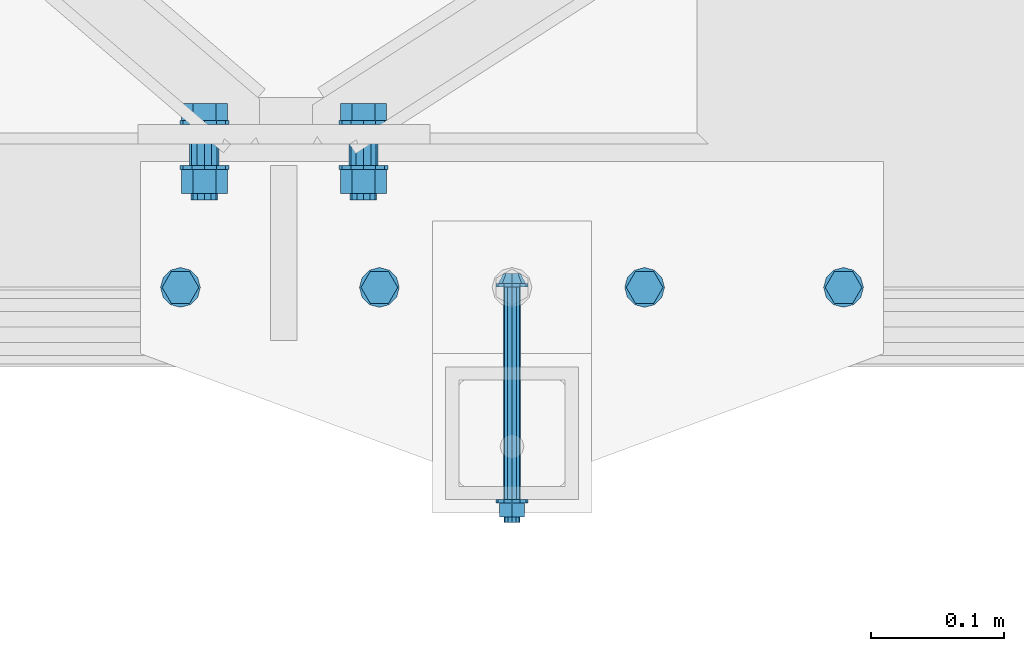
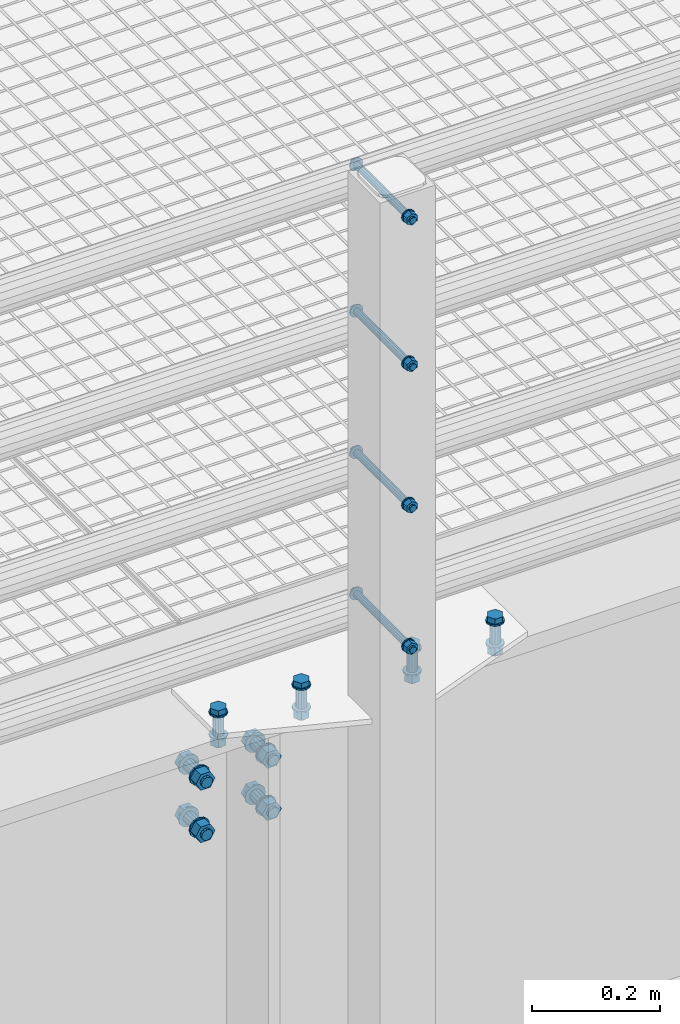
# One storey, part 17 of 1530: 6 mechanical fasteners.
"""IFC2X3 building model written with IfcOpenShell, lengths in millimetres."""

from ifc_helpers import new_model, si_unit, frame, origin_with_axes, place, context, subcontext, project, spatial, faceted_brep, source, transform, mapped, material, type_object, element, save


model = new_model("IFC2X3")

# Units and contexts
model_context = context("Model", 3, precision=1e-05, world=origin_with_axes())
body_context = subcontext(model_context, "Body", "Model", "MODEL_VIEW")
ifc_project = project(units=[si_unit("LENGTHUNIT", "METRE", prefix="MILLI"), si_unit("AREAUNIT", "SQUARE_METRE"), si_unit("VOLUMEUNIT", "CUBIC_METRE"), si_unit("MASSUNIT", "GRAM", prefix="KILO"), si_unit("TIMEUNIT", "SECOND"), si_unit("PLANEANGLEUNIT", "RADIAN"), si_unit("SOLIDANGLEUNIT", "STERADIAN"), si_unit("THERMODYNAMICTEMPERATUREUNIT", "DEGREE_CELSIUS"), si_unit("LUMINOUSINTENSITYUNIT", "LUMEN")], contexts=[model_context])

# Site, building, storey
site_placement = place(None, origin_with_axes())
site = spatial("IfcSite", under=ifc_project, at=site_placement, Name="Brattvåg", CompositionType="ELEMENT")
building_placement = place(site_placement, origin_with_axes())
building = spatial("IfcBuilding", under=site, at=building_placement, Name="Undefined", CompositionType="ELEMENT")
storey_placement = place(building_placement, origin_with_axes())
storey = spatial("IfcBuildingStorey", under=building, at=storey_placement, Name="Undefined", CompositionType="ELEMENT", Elevation=0.0)

# Mechanical fasteners
ifc_material = material(Name="8")
mechanical_fastener_type = type_object("IfcMechanicalFastenerType", Name="Bolt assembly")
shared_shape_1 = source(origin_with_axes(), body_context, "Body", "Brep", [
    faceted_brep([(6.49435320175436, -9.99984019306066, 0.0), (4.59220118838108, -9.99984019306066, 4.59220118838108), (3.97664443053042e-16, -9.99984019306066, 6.49435320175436), (-4.59220118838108, -9.99984019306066, 4.59220118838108), (-6.49435320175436, -9.99984019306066, 7.95328886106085e-16), (-4.59220118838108, -9.99984019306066, -4.59220118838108), (-1.19299332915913e-15, -9.99984019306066, -6.49435320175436), (4.59220118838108, -9.99984019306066, -4.59220118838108), (7.34846922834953, -2.49984019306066, -7.34846922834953), (-1.90903542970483e-15, -2.49984019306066, -10.3923048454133), (-7.34846922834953, -2.49984019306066, -7.34846922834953), (-10.3923048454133, -2.49984019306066, 1.27269028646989e-15), (-7.34846922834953, -2.49984019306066, 7.34846922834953), (6.36345143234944e-16, -2.49984019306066, 10.3923048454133), (7.34846922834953, -2.49984019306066, 7.34846922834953), (10.3923048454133, -2.49984019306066, 0.0), (6.0, -2.49984019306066, 0.0), (5.19615242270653, -2.49984019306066, 3.00000000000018), (2.99999999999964, -2.49984019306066, 5.19615242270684), (-6.21801588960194e-13, -2.49984019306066, 6.0), (-3.00000000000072, -2.49984019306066, 5.19615242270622), (-5.19615242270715, -2.49984019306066, 2.9999999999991), (-6.0, -2.49984019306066, -1.24360317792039e-12), (-5.19615242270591, -2.49984019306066, -3.00000000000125), (-2.99999999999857, -2.49984019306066, -5.19615242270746), (1.85874342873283e-12, -2.49984019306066, -6.0), (3.00000000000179, -2.49984019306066, -5.1961524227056), (5.19615242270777, -2.49984019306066, -2.99999999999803), (5.19615242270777, 177.500159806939, -2.99999999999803), (3.00000000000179, 177.500159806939, -5.1961524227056), (1.85874342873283e-12, 177.500159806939, -6.0), (-2.99999999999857, 177.500159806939, -5.19615242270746), (-5.19615242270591, 177.500159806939, -3.00000000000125), (-6.0, 177.500159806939, -1.24360317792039e-12), (-5.19615242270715, 177.500159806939, 2.9999999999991), (-3.00000000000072, 177.500159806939, 5.19615242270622), (-6.21801588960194e-13, 177.500159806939, 6.0), (2.99999999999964, 177.500159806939, 5.19615242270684), (5.19615242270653, 177.500159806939, 3.00000000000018), (6.0, 177.500159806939, 0.0), (12.0, -2.49984019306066, 0.0), (10.3923048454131, -2.49984019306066, 6.00000000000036), (5.99999999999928, -2.49984019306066, 10.3923048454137), (-1.24360317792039e-12, -2.49984019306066, 12.0), (-6.00000000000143, -2.49984019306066, 10.3923048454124), (-10.3923048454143, -2.49984019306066, 5.99999999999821), (-12.0, -2.49984019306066, -2.48720635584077e-12), (-10.3923048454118, -2.49984019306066, -6.00000000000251), (-5.99999999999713, -2.49984019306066, -10.3923048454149), (3.71748685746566e-12, -2.49984019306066, -12.0), (6.00000000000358, -2.49984019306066, -10.3923048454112), (10.3923048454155, -2.49984019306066, -5.99999999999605), (10.3923048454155, 0.000159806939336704, -5.99999999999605), (6.00000000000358, 0.000159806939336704, -10.3923048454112), (3.71748685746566e-12, 0.000159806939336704, -12.0), (-5.99999999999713, 0.000159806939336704, -10.3923048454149), (-10.3923048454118, 0.000159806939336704, -6.00000000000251), (-12.0, 0.000159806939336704, -2.48720635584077e-12), (-10.3923048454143, 0.000159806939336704, 5.99999999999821), (-6.00000000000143, 0.000159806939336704, 10.3923048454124), (-1.24360317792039e-12, 0.000159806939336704, 12.0), (5.99999999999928, 0.000159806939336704, 10.3923048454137), (10.3923048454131, 0.000159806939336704, 6.00000000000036), (12.0, 0.000159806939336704, 0.0), (12.0, 160.299998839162, 0.0), (10.3923048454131, 160.299998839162, 6.00000000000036), (5.99999999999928, 160.299998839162, 10.3923048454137), (-1.24360317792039e-12, 160.299998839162, 12.0), (-6.00000000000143, 160.299998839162, 10.3923048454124), (-10.3923048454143, 160.299998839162, 5.99999999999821), (-12.0, 160.299998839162, -2.48720635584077e-12), (-10.3923048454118, 160.299998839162, -6.00000000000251), (-5.99999999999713, 160.299998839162, -10.3923048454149), (3.71748685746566e-12, 160.299998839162, -12.0), (6.00000000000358, 160.299998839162, -10.3923048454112), (10.3923048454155, 160.299998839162, -5.99999999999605), (10.3923048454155, 162.799998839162, -5.99999999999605), (6.00000000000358, 162.799998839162, -10.3923048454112), (3.71748685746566e-12, 162.799998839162, -12.0), (-5.99999999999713, 162.799998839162, -10.3923048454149), (-10.3923048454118, 162.799998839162, -6.00000000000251), (-12.0, 162.799998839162, -2.48720635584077e-12), (-10.3923048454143, 162.799998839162, 5.99999999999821), (-6.00000000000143, 162.799998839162, 10.3923048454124), (-1.24360317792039e-12, 162.799998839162, 12.0), (5.99999999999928, 162.799998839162, 10.3923048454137), (10.3923048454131, 162.799998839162, 6.00000000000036), (12.0, 162.799998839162, 0.0), (10.9696551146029, 162.799998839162, 0.0), (5.48482755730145, 162.799998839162, 9.5), (-5.48482755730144, 162.799998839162, 9.5), (-10.9696551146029, 162.799998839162, 1.34339530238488e-15), (-5.48482755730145, 162.799998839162, -9.5), (5.48482755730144, 162.799998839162, -9.5), (5.48482755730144, 173.599999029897, -9.5), (-5.48482755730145, 173.599999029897, -9.5), (-10.9696551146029, 173.599999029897, 1.34339530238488e-15), (-5.48482755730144, 173.599999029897, 9.5), (5.48482755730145, 173.599999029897, 9.5), (10.9696551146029, 173.599999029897, 0.0)], [[[0, 1, 2, 3, 4, 5, 6, 7]], [[8, 9, 10, 11, 12, 13, 14, 15]], [[0, 15, 14, 1]], [[1, 14, 13, 2]], [[2, 13, 12, 3]], [[3, 12, 11, 4]], [[4, 11, 10, 5]], [[5, 10, 9, 6]], [[6, 9, 8, 7]], [[7, 8, 15, 0]], [[16, 17, 18, 19, 20, 21, 22, 23, 24, 25, 26, 27]], [[28, 29, 30, 31, 32, 33, 34, 35, 36, 37, 38, 39]], [[16, 39, 38, 17]], [[17, 38, 37, 18]], [[18, 37, 36, 19]], [[19, 36, 35, 20]], [[20, 35, 34, 21]], [[21, 34, 33, 22]], [[22, 33, 32, 23]], [[23, 32, 31, 24]], [[24, 31, 30, 25]], [[25, 30, 29, 26]], [[26, 29, 28, 27]], [[27, 28, 39, 16]], [[40, 41, 42, 43, 44, 45, 46, 47, 48, 49, 50, 51]], [[52, 53, 54, 55, 56, 57, 58, 59, 60, 61, 62, 63]], [[40, 63, 62, 41]], [[41, 62, 61, 42]], [[42, 61, 60, 43]], [[43, 60, 59, 44]], [[44, 59, 58, 45]], [[45, 58, 57, 46]], [[46, 57, 56, 47]], [[47, 56, 55, 48]], [[48, 55, 54, 49]], [[49, 54, 53, 50]], [[50, 53, 52, 51]], [[51, 52, 63, 40]], [[64, 65, 66, 67, 68, 69, 70, 71, 72, 73, 74, 75]], [[76, 77, 78, 79, 80, 81, 82, 83, 84, 85, 86, 87]], [[64, 87, 86, 65]], [[65, 86, 85, 66]], [[66, 85, 84, 67]], [[67, 84, 83, 68]], [[68, 83, 82, 69]], [[69, 82, 81, 70]], [[70, 81, 80, 71]], [[71, 80, 79, 72]], [[72, 79, 78, 73]], [[73, 78, 77, 74]], [[74, 77, 76, 75]], [[75, 76, 87, 64]], [[88, 89, 90, 91, 92, 93]], [[94, 95, 96, 97, 98, 99]], [[88, 99, 98, 89]], [[89, 98, 97, 90]], [[90, 97, 96, 91]], [[91, 96, 95, 92]], [[92, 95, 94, 93]], [[93, 94, 99, 88]]]),
    faceted_brep([(6.5, 0.100159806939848, 0.0), (5.62916512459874, 0.100159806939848, 3.25000000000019), (3.24999999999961, 0.100159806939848, 5.62916512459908), (-6.7361838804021e-13, 0.100159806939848, 6.5), (-3.25000000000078, 0.100159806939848, 5.6291651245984), (-5.62916512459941, 0.100159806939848, 3.24999999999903), (-6.5, 0.100159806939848, -1.34723677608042e-12), (-5.62916512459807, 0.100159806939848, -3.25000000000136), (-3.24999999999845, 0.100159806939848, -5.62916512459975), (2.01363871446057e-12, 0.100159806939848, -6.5), (3.25000000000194, 0.100159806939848, -5.62916512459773), (5.62916512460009, 0.100159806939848, -3.24999999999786), (5.62916512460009, 60.4001552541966, -3.24999999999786), (3.25000000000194, 60.4001552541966, -5.62916512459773), (2.01363871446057e-12, 60.4001552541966, -6.5), (-3.24999999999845, 60.4001552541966, -5.62916512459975), (-5.62916512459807, 60.4001552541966, -3.25000000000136), (-6.5, 60.4001552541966, -1.34723677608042e-12), (-5.62916512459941, 60.4001552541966, 3.24999999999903), (-3.25000000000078, 60.4001552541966, 5.6291651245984), (-6.7361838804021e-13, 60.4001552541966, 6.5), (3.24999999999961, 60.4001552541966, 5.62916512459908), (5.62916512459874, 60.4001552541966, 3.25000000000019), (6.5, 60.4001552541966, 0.0), (6.5, 60.1999988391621, 0.0), (5.62916512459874, 60.1999988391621, 3.25000000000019), (3.24999999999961, 60.1999988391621, 5.62916512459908), (-6.7361838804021e-13, 60.1999988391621, 6.5), (-3.25000000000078, 60.1999988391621, 5.6291651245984), (-5.62916512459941, 60.1999988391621, 3.24999999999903), (-6.5, 60.1999988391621, -1.34723677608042e-12), (-5.62916512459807, 60.1999988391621, -3.25000000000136), (-3.24999999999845, 60.1999988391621, -5.62916512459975), (2.01363871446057e-12, 60.1999988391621, -6.5), (3.25000000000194, 60.1999988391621, -5.62916512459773), (5.62916512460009, 60.1999988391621, -3.24999999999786), (5.62916512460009, 160.299998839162, -3.24999999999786), (3.25000000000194, 160.299998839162, -5.62916512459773), (2.01363871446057e-12, 160.299998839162, -6.5), (-3.24999999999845, 160.299998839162, -5.62916512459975), (-5.62916512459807, 160.299998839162, -3.25000000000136), (-6.5, 160.299998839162, -1.34723677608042e-12), (-5.62916512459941, 160.299998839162, 3.24999999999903), (-3.25000000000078, 160.299998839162, 5.6291651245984), (-6.7361838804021e-13, 160.299998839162, 6.5), (3.24999999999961, 160.299998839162, 5.62916512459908), (5.62916512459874, 160.299998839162, 3.25000000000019), (6.5, 160.299998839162, 0.0)], [[[0, 1, 2, 3, 4, 5, 6, 7, 8, 9, 10, 11]], [[12, 13, 14, 15, 16, 17, 18, 19, 20, 21, 22, 23]], [[0, 23, 22, 1]], [[1, 22, 21, 2]], [[2, 21, 20, 3]], [[3, 20, 19, 4]], [[4, 19, 18, 5]], [[5, 18, 17, 6]], [[6, 17, 16, 7]], [[7, 16, 15, 8]], [[8, 15, 14, 9]], [[9, 14, 13, 10]], [[10, 13, 12, 11]], [[11, 12, 23, 0]], [[24, 25, 26, 27, 28, 29, 30, 31, 32, 33, 34, 35]], [[36, 37, 38, 39, 40, 41, 42, 43, 44, 45, 46, 47]], [[24, 47, 46, 25]], [[25, 46, 45, 26]], [[26, 45, 44, 27]], [[27, 44, 43, 28]], [[28, 43, 42, 29]], [[29, 42, 41, 30]], [[30, 41, 40, 31]], [[31, 40, 39, 32]], [[32, 39, 38, 33]], [[33, 38, 37, 34]], [[34, 37, 36, 35]], [[35, 36, 47, 24]]]),
])
for number, where, z_axis, x_axis, name in (
    (1, (7749.9999999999, -99.6997226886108, 149.550000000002), (-1.0, 1.99999855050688e-09, 0.0), (0.0, 0.0, -1.0), "Bolt assembly"),
    (2, (7749.9999999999, -99.6997226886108, 419.550000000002), (-1.0, 1.99999855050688e-09, 0.0), (0.0, 0.0, -1.0), "Bolt assembly"),
    (3, (7749.9999999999, -99.6997226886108, 689.550000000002), (-1.0, 1.99999855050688e-09, 0.0), (0.0, 0.0, -1.0), "Bolt assembly"),
    (4, (7749.9999999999, -99.6997226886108, 969.550000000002), (-1.0, 1.99999855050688e-09, 0.0), (0.0, 0.0, -1.0), "Bolt assembly"),
):
    element("IfcMechanicalFastener", number, at=place(storey_placement, frame(where, z_axis=z_axis, x_axis=x_axis)), inside=storey, type_object=mechanical_fastener_type, material=ifc_material, Name=name, NominalDiameter=12.0, NominalLength=180.0, context=body_context, shape_type="MappedRepresentation", body=[
        mapped(shared_shape_1, transform((0.0, 0.0, 0.0))),
    ])
shared_shape_2 = source(origin_with_axes(), body_context, "Body", "Brep", [
    faceted_brep([(13.856406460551, -13.0, 0.0), (6.92820323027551, -13.0, 12.0), (-6.92820323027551, -13.0, 12.0), (-13.856406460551, -13.0, 1.69692038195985e-15), (-6.92820323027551, -13.0, -12.0), (6.9282032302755, -13.0, -12.0), (6.9282032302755, -3.0, -12.0), (-6.92820323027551, -3.0, -12.0), (-13.856406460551, -3.0, 1.69692038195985e-15), (-6.92820323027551, -3.0, 12.0), (6.92820323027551, -3.0, 12.0), (13.856406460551, -3.0, 0.0), (8.0, -3.0, 0.0), (6.92820323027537, -3.0, 4.00000000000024), (3.99999999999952, -3.0, 6.92820323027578), (-8.29068785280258e-13, -3.0, 8.0), (-4.00000000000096, -3.0, 6.92820323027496), (-6.9282032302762, -3.0, 3.99999999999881), (-8.0, -3.0, -1.65813757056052e-12), (-6.92820323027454, -3.0, -4.00000000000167), (-3.99999999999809, -3.0, -6.92820323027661), (2.47832457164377e-12, -3.0, -8.0), (4.00000000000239, -3.0, -6.92820323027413), (6.92820323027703, -3.0, -3.99999999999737), (6.92820323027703, 62.0000000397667, -3.99999999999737), (4.00000000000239, 62.0000000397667, -6.92820323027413), (2.47832457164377e-12, 62.0000000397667, -8.0), (-3.99999999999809, 62.0000000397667, -6.92820323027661), (-6.92820323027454, 62.0000000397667, -4.00000000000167), (-8.0, 62.0000000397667, -1.65813757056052e-12), (-6.9282032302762, 62.0000000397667, 3.99999999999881), (-4.00000000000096, 62.0000000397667, 6.92820323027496), (-8.29068785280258e-13, 62.0000000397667, 8.0), (3.99999999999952, 62.0000000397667, 6.92820323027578), (6.92820323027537, 62.0000000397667, 4.00000000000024), (8.0, 62.0000000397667, 0.0), (15.0, -3.0, 0.0), (12.9903810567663, -3.0, 7.50000000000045), (7.4999999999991, -3.0, 12.9903810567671), (-1.55450397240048e-12, -3.0, 15.0), (-7.50000000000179, -3.0, 12.9903810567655), (-12.9903810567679, -3.0, 7.49999999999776), (-15.0, -3.0, -3.10900794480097e-12), (-12.9903810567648, -3.0, -7.50000000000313), (-7.49999999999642, -3.0, -12.9903810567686), (4.64685857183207e-12, -3.0, -15.0), (7.50000000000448, -3.0, -12.990381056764), (12.9903810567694, -3.0, -7.49999999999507), (12.9903810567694, 0.0, -7.49999999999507), (7.50000000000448, 0.0, -12.990381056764), (0.0, 0.0, -15.0), (-7.49999999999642, 0.0, -12.9903810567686), (-12.9903810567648, 0.0, -7.50000000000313), (-15.0, 0.0, -3.10900794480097e-12), (-12.9903810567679, 0.0, 7.49999999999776), (-7.50000000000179, 0.0, 12.9903810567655), (0.0, 0.0, 15.0), (7.4999999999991, 0.0, 12.9903810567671), (12.9903810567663, 0.0, 7.50000000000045), (15.0, 0.0, 0.0), (15.0, 39.9997390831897, 0.0), (12.9903810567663, 39.9997390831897, 7.50000000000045), (7.4999999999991, 39.9997390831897, 12.9903810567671), (-1.55450397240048e-12, 39.9997390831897, 15.0), (-7.50000000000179, 39.9997390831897, 12.9903810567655), (-12.9903810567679, 39.9997390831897, 7.49999999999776), (-15.0, 39.9997390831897, -3.10900794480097e-12), (-12.9903810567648, 39.9997390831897, -7.50000000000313), (-7.49999999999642, 39.9997390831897, -12.9903810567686), (4.64685857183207e-12, 39.9997390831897, -15.0), (7.50000000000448, 39.9997390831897, -12.990381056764), (12.9903810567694, 39.9997390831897, -7.49999999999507), (12.9903810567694, 42.9997390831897, -7.49999999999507), (7.50000000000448, 42.9997390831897, -12.990381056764), (4.64685857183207e-12, 42.9997390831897, -15.0), (-7.49999999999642, 42.9997390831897, -12.9903810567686), (-12.9903810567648, 42.9997390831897, -7.50000000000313), (-15.0, 42.9997390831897, -3.10900794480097e-12), (-12.9903810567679, 42.9997390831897, 7.49999999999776), (-7.50000000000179, 42.9997390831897, 12.9903810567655), (-1.55450397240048e-12, 42.9997390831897, 15.0), (7.4999999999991, 42.9997390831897, 12.9903810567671), (12.9903810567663, 42.9997390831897, 7.50000000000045), (15.0, 42.9997390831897, 0.0), (13.856406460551, 42.9997390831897, 0.0), (6.92820323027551, 42.9997390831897, 12.0), (-6.92820323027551, 42.9997390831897, 12.0), (-13.856406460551, 42.9997390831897, 1.69692038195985e-15), (-6.92820323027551, 42.9997390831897, -12.0), (6.9282032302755, 42.9997390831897, -12.0), (6.9282032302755, 57.7997392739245, -12.0), (-6.92820323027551, 57.7997392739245, -12.0), (-13.856406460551, 57.7997392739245, 1.69692038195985e-15), (-6.92820323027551, 57.7997392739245, 12.0), (6.92820323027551, 57.7997392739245, 12.0), (13.856406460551, 57.7997392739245, 0.0)], [[[0, 1, 2, 3, 4, 5]], [[6, 7, 8, 9, 10, 11]], [[0, 11, 10, 1]], [[1, 10, 9, 2]], [[2, 9, 8, 3]], [[3, 8, 7, 4]], [[4, 7, 6, 5]], [[5, 6, 11, 0]], [[12, 13, 14, 15, 16, 17, 18, 19, 20, 21, 22, 23]], [[24, 25, 26, 27, 28, 29, 30, 31, 32, 33, 34, 35]], [[12, 35, 34, 13]], [[13, 34, 33, 14]], [[14, 33, 32, 15]], [[15, 32, 31, 16]], [[16, 31, 30, 17]], [[17, 30, 29, 18]], [[18, 29, 28, 19]], [[19, 28, 27, 20]], [[20, 27, 26, 21]], [[21, 26, 25, 22]], [[22, 25, 24, 23]], [[23, 24, 35, 12]], [[36, 37, 38, 39, 40, 41, 42, 43, 44, 45, 46, 47]], [[48, 49, 50, 51, 52, 53, 54, 55, 56, 57, 58, 59]], [[36, 59, 58, 37]], [[37, 58, 57, 38]], [[38, 57, 56, 39]], [[39, 56, 55, 40]], [[40, 55, 54, 41]], [[41, 54, 53, 42]], [[42, 53, 52, 43]], [[43, 52, 51, 44]], [[44, 51, 50, 45]], [[45, 50, 49, 46]], [[46, 49, 48, 47]], [[47, 48, 59, 36]], [[60, 61, 62, 63, 64, 65, 66, 67, 68, 69, 70, 71]], [[72, 73, 74, 75, 76, 77, 78, 79, 80, 81, 82, 83]], [[60, 83, 82, 61]], [[61, 82, 81, 62]], [[62, 81, 80, 63]], [[63, 80, 79, 64]], [[64, 79, 78, 65]], [[65, 78, 77, 66]], [[66, 77, 76, 67]], [[67, 76, 75, 68]], [[68, 75, 74, 69]], [[69, 74, 73, 70]], [[70, 73, 72, 71]], [[71, 72, 83, 60]], [[84, 85, 86, 87, 88, 89]], [[90, 91, 92, 93, 94, 95]], [[84, 95, 94, 85]], [[85, 94, 93, 86]], [[86, 93, 92, 87]], [[87, 92, 91, 88]], [[88, 91, 90, 89]], [[89, 90, 95, 84]]]),
    faceted_brep([(9.0, 0.1, 0.0), (7.79422863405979, 0.1, 4.50000000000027), (4.49999999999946, 0.1, 7.79422863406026), (-9.3270238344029e-13, 0.1, 9.0), (-4.50000000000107, 0.1, 7.79422863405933), (-7.79422863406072, 0.1, 4.49999999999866), (-9.0, 0.1, -1.86540476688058e-12), (-7.79422863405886, 0.1, -4.50000000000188), (-4.49999999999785, 0.1, -7.79422863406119), (2.78811514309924e-12, 0.1, -9.0), (4.50000000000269, 0.1, -7.7942286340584), (7.79422863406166, 0.1, -4.49999999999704), (7.79422863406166, 10.1, -4.49999999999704), (4.50000000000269, 10.1, -7.7942286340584), (2.78811514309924e-12, 10.1, -9.0), (-4.49999999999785, 10.1, -7.79422863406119), (-7.79422863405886, 10.1, -4.50000000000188), (-9.0, 10.1, -1.86540476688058e-12), (-7.79422863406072, 10.1, 4.49999999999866), (-4.50000000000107, 10.1, 7.79422863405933), (-9.3270238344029e-13, 10.1, 9.0), (4.49999999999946, 10.1, 7.79422863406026), (7.79422863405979, 10.1, 4.50000000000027), (9.0, 10.1, 0.0), (9.0, 9.8997390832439, 0.0), (7.79422863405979, 9.8997390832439, 4.50000000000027), (4.49999999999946, 9.8997390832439, 7.79422863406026), (-9.3270238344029e-13, 9.8997390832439, 9.0), (-4.50000000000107, 9.8997390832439, 7.79422863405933), (-7.79422863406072, 9.8997390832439, 4.49999999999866), (-9.0, 9.8997390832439, -1.86540476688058e-12), (-7.79422863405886, 9.8997390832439, -4.50000000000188), (-4.49999999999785, 9.8997390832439, -7.79422863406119), (2.78811514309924e-12, 9.8997390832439, -9.0), (4.50000000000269, 9.8997390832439, -7.7942286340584), (7.79422863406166, 9.8997390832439, -4.49999999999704), (7.79422863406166, 39.9997390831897, -4.49999999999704), (4.50000000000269, 39.9997390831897, -7.7942286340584), (2.78811514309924e-12, 39.9997390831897, -9.0), (-4.49999999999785, 39.9997390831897, -7.79422863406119), (-7.79422863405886, 39.9997390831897, -4.50000000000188), (-9.0, 39.9997390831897, -1.86540476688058e-12), (-7.79422863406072, 39.9997390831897, 4.49999999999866), (-4.50000000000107, 39.9997390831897, 7.79422863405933), (-9.3270238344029e-13, 39.9997390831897, 9.0), (4.49999999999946, 39.9997390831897, 7.79422863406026), (7.79422863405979, 39.9997390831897, 4.50000000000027), (9.0, 39.9997390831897, 0.0)], [[[0, 1, 2, 3, 4, 5, 6, 7, 8, 9, 10, 11]], [[12, 13, 14, 15, 16, 17, 18, 19, 20, 21, 22, 23]], [[0, 23, 22, 1]], [[1, 22, 21, 2]], [[2, 21, 20, 3]], [[3, 20, 19, 4]], [[4, 19, 18, 5]], [[5, 18, 17, 6]], [[6, 17, 16, 7]], [[7, 16, 15, 8]], [[8, 15, 14, 9]], [[9, 14, 13, 10]], [[10, 13, 12, 11]], [[11, 12, 23, 0]], [[24, 25, 26, 27, 28, 29, 30, 31, 32, 33, 34, 35]], [[36, 37, 38, 39, 40, 41, 42, 43, 44, 45, 46, 47]], [[24, 47, 46, 25]], [[25, 46, 45, 26]], [[26, 45, 44, 27]], [[27, 44, 43, 28]], [[28, 43, 42, 29]], [[29, 42, 41, 30]], [[30, 41, 40, 31]], [[31, 40, 39, 32]], [[32, 39, 38, 33]], [[33, 38, 37, 34]], [[34, 37, 36, 35]], [[35, 36, 47, 24]]]),
])
mechanical_fastener_1_placement = place(storey_placement, frame((7500.00080867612, -99.9996071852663, 9.99973861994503), z_axis=(0.0, 1.0, 0.0), x_axis=(1.0, 0.0, 0.0)))
element("IfcMechanicalFastener", 5, at=mechanical_fastener_1_placement, inside=storey, type_object=mechanical_fastener_type, material=ifc_material, Name="Bolt assembly", NominalDiameter=16.0, NominalLength=65.0, context=body_context, shape_type="MappedRepresentation", body=[
    mapped(shared_shape_2, transform((0.0, 0.0, 0.0))),
    mapped(shared_shape_2, transform((150.000000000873, 2.32514452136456e-10, 0.0))),
    mapped(shared_shape_2, transform((350.0, 1.49213974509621e-11, 0.0))),
    mapped(shared_shape_2, transform((500.0, 0.0, 0.0))),
])
shared_shape_3 = source(origin_with_axes(), body_context, "Body", "Brep", [
    faceted_brep([(17.3205080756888, -15.5000000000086, 0.0), (8.66025403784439, -15.5000000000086, 15.0), (-8.66025403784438, -15.5000000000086, 15.0), (-17.3205080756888, -15.5000000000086, 2.12115047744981e-15), (-8.66025403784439, -15.5000000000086, -15.0), (8.66025403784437, -15.5000000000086, -15.0), (8.66025403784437, -3.00000000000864, -15.0), (-8.66025403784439, -3.00000000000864, -15.0), (-17.3205080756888, -3.00000000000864, 2.12115047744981e-15), (-8.66025403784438, -3.00000000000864, 15.0), (8.66025403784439, -3.00000000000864, 15.0), (17.3205080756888, -3.00000000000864, 0.0), (10.0, -3.00000000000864, 0.0), (8.66025403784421, -3.00000000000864, 5.0000000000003), (4.9999999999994, -3.00000000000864, 8.66025403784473), (-1.03633598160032e-12, -3.00000000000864, 10.0), (-5.00000000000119, -3.00000000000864, 8.6602540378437), (-8.66025403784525, -3.00000000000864, 4.99999999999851), (-10.0, -3.00000000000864, -2.07267196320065e-12), (-8.66025403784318, -3.00000000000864, -5.00000000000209), (-4.99999999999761, -3.00000000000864, -8.66025403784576), (3.09790571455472e-12, -3.00000000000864, -10.0), (5.00000000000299, -3.00000000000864, -8.66025403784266), (8.66025403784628, -3.00000000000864, -4.99999999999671), (8.66025403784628, 57.0, -4.99999999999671), (5.00000000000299, 57.0, -8.66025403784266), (3.09790571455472e-12, 57.0, -10.0), (-4.99999999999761, 57.0, -8.66025403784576), (-8.66025403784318, 57.0, -5.00000000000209), (-10.0, 57.0, -2.07267196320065e-12), (-8.66025403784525, 57.0, 4.99999999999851), (-5.00000000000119, 57.0, 8.6602540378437), (-1.03633598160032e-12, 57.0, 10.0), (4.9999999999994, 57.0, 8.66025403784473), (8.66025403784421, 57.0, 5.0000000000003), (10.0, 57.0, 0.0), (18.5, -3.00000000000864, 0.0), (16.0214699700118, -3.00000000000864, 9.25000000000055), (9.2499999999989, -3.00000000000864, 16.0214699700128), (-1.9172215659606e-12, -3.00000000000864, 18.5), (-9.25000000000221, -3.00000000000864, 16.0214699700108), (-16.0214699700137, -3.00000000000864, 9.24999999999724), (-18.5, -3.00000000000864, -3.83444313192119e-12), (-16.0214699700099, -3.00000000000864, -9.25000000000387), (-9.24999999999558, -3.00000000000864, -16.0214699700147), (5.73112557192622e-12, -3.00000000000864, -18.5), (9.25000000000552, -3.00000000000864, -16.0214699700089), (16.0214699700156, -3.00000000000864, -9.24999999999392), (16.0214699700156, -8.64019966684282e-12, -9.24999999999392), (9.25000000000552, -8.64019966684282e-12, -16.0214699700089), (5.73112557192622e-12, -8.64019966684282e-12, -18.5), (-9.24999999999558, -8.64019966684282e-12, -16.0214699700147), (-16.0214699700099, -8.64019966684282e-12, -9.25000000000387), (-18.5, -8.64019966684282e-12, -3.83444313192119e-12), (-16.0214699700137, -8.64019966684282e-12, 9.24999999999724), (-9.25000000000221, -8.64019966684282e-12, 16.0214699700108), (-1.9172215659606e-12, -8.64019966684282e-12, 18.5), (9.2499999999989, -8.64019966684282e-12, 16.0214699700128), (16.0214699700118, -8.64019966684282e-12, 9.25000000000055), (18.5, -8.64019966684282e-12, 0.0), (18.5, 31.0015563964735, 0.0), (16.0214699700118, 31.0015563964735, 9.25000000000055), (9.2499999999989, 31.0015563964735, 16.0214699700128), (-1.9172215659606e-12, 31.0015563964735, 18.5), (-9.25000000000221, 31.0015563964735, 16.0214699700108), (-16.0214699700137, 31.0015563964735, 9.24999999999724), (-18.5, 31.0015563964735, -3.83444313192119e-12), (-16.0214699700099, 31.0015563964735, -9.25000000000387), (-9.24999999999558, 31.0015563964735, -16.0214699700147), (5.73112557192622e-12, 31.0015563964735, -18.5), (9.25000000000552, 31.0015563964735, -16.0214699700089), (16.0214699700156, 31.0015563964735, -9.24999999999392), (16.0214699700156, 34.0015563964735, -9.24999999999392), (9.25000000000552, 34.0015563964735, -16.0214699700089), (5.73112557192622e-12, 34.0015563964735, -18.5), (-9.24999999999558, 34.0015563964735, -16.0214699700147), (-16.0214699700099, 34.0015563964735, -9.25000000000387), (-18.5, 34.0015563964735, -3.83444313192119e-12), (-16.0214699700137, 34.0015563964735, 9.24999999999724), (-9.25000000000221, 34.0015563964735, 16.0214699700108), (-1.9172215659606e-12, 34.0015563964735, 18.5), (9.2499999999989, 34.0015563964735, 16.0214699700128), (16.0214699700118, 34.0015563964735, 9.25000000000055), (18.5, 34.0015563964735, 0.0), (17.3205080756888, 34.0015563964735, 0.0), (8.66025403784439, 34.0015563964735, 15.0), (-8.66025403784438, 34.0015563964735, 15.0), (-17.3205080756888, 34.0015563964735, 2.12115047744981e-15), (-8.66025403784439, 34.0015563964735, -15.0), (8.66025403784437, 34.0015563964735, -15.0), (8.66025403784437, 52.0015563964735, -15.0), (-8.66025403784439, 52.0015563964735, -15.0), (-17.3205080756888, 52.0015563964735, 2.12115047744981e-15), (-8.66025403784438, 52.0015563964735, 15.0), (8.66025403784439, 52.0015563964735, 15.0), (17.3205080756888, 52.0015563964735, 0.0)], [[[0, 1, 2, 3, 4, 5]], [[6, 7, 8, 9, 10, 11]], [[0, 11, 10, 1]], [[1, 10, 9, 2]], [[2, 9, 8, 3]], [[3, 8, 7, 4]], [[4, 7, 6, 5]], [[5, 6, 11, 0]], [[12, 13, 14, 15, 16, 17, 18, 19, 20, 21, 22, 23]], [[24, 25, 26, 27, 28, 29, 30, 31, 32, 33, 34, 35]], [[12, 35, 34, 13]], [[13, 34, 33, 14]], [[14, 33, 32, 15]], [[15, 32, 31, 16]], [[16, 31, 30, 17]], [[17, 30, 29, 18]], [[18, 29, 28, 19]], [[19, 28, 27, 20]], [[20, 27, 26, 21]], [[21, 26, 25, 22]], [[22, 25, 24, 23]], [[23, 24, 35, 12]], [[36, 37, 38, 39, 40, 41, 42, 43, 44, 45, 46, 47]], [[48, 49, 50, 51, 52, 53, 54, 55, 56, 57, 58, 59]], [[36, 59, 58, 37]], [[37, 58, 57, 38]], [[38, 57, 56, 39]], [[39, 56, 55, 40]], [[40, 55, 54, 41]], [[41, 54, 53, 42]], [[42, 53, 52, 43]], [[43, 52, 51, 44]], [[44, 51, 50, 45]], [[45, 50, 49, 46]], [[46, 49, 48, 47]], [[47, 48, 59, 36]], [[60, 61, 62, 63, 64, 65, 66, 67, 68, 69, 70, 71]], [[72, 73, 74, 75, 76, 77, 78, 79, 80, 81, 82, 83]], [[60, 83, 82, 61]], [[61, 82, 81, 62]], [[62, 81, 80, 63]], [[63, 80, 79, 64]], [[64, 79, 78, 65]], [[65, 78, 77, 66]], [[66, 77, 76, 67]], [[67, 76, 75, 68]], [[68, 75, 74, 69]], [[69, 74, 73, 70]], [[70, 73, 72, 71]], [[71, 72, 83, 60]], [[84, 85, 86, 87, 88, 89]], [[90, 91, 92, 93, 94, 95]], [[84, 95, 94, 85]], [[85, 94, 93, 86]], [[86, 93, 92, 87]], [[87, 92, 91, 88]], [[88, 91, 90, 89]], [[89, 90, 95, 84]]]),
    faceted_brep([(11.0, 0.1, 0.0), (9.52627944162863, 0.1, 5.50000000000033), (5.49999999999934, 0.1, 9.5262794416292), (-1.13996957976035e-12, 0.1, 11.0), (-5.50000000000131, 0.1, 9.52627944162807), (-9.52627944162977, 0.1, 5.49999999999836), (-11.0, 0.1, -2.27993915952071e-12), (-9.5262794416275, 0.1, -5.5000000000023), (-5.49999999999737, 0.1, -9.52627944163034), (3.40769628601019e-12, 0.1, -11.0), (5.50000000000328, 0.1, -9.52627944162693), (9.52627944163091, 0.1, -5.49999999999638), (9.52627944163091, 15.1, -5.49999999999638), (5.50000000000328, 15.1, -9.52627944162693), (3.40769628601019e-12, 15.1, -11.0), (-5.49999999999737, 15.1, -9.52627944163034), (-9.5262794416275, 15.1, -5.5000000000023), (-11.0, 15.1, -2.27993915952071e-12), (-9.52627944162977, 15.1, 5.49999999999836), (-5.50000000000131, 15.1, 9.52627944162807), (-1.13996957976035e-12, 15.1, 11.0), (5.49999999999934, 15.1, 9.5262794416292), (9.52627944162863, 15.1, 5.50000000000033), (11.0, 15.1, 0.0), (11.0, 14.9015563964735, 0.0), (9.52627944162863, 14.9015563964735, 5.50000000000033), (5.49999999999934, 14.9015563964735, 9.5262794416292), (-1.13996957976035e-12, 14.9015563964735, 11.0), (-5.50000000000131, 14.9015563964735, 9.52627944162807), (-9.52627944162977, 14.9015563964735, 5.49999999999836), (-11.0, 14.9015563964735, -2.27993915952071e-12), (-9.5262794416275, 14.9015563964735, -5.5000000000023), (-5.49999999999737, 14.9015563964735, -9.52627944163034), (3.40769628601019e-12, 14.9015563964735, -11.0), (5.50000000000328, 14.9015563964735, -9.52627944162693), (9.52627944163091, 14.9015563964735, -5.49999999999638), (9.52627944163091, 31.0015563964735, -5.49999999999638), (5.50000000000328, 31.0015563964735, -9.52627944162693), (3.40769628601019e-12, 31.0015563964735, -11.0), (-5.49999999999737, 31.0015563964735, -9.52627944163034), (-9.5262794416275, 31.0015563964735, -5.5000000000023), (-11.0, 31.0015563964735, -2.27993915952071e-12), (-9.52627944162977, 31.0015563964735, 5.49999999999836), (-5.50000000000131, 31.0015563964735, 9.52627944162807), (-1.13996957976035e-12, 31.0015563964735, 11.0), (5.49999999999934, 31.0015563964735, 9.5262794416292), (9.52627944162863, 31.0015563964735, 5.50000000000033), (11.0, 31.0015563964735, 0.0)], [[[0, 1, 2, 3, 4, 5, 6, 7, 8, 9, 10, 11]], [[12, 13, 14, 15, 16, 17, 18, 19, 20, 21, 22, 23]], [[0, 23, 22, 1]], [[1, 22, 21, 2]], [[2, 21, 20, 3]], [[3, 20, 19, 4]], [[4, 19, 18, 5]], [[5, 18, 17, 6]], [[6, 17, 16, 7]], [[7, 16, 15, 8]], [[8, 15, 14, 9]], [[9, 14, 13, 10]], [[10, 13, 12, 11]], [[11, 12, 23, 0]], [[24, 25, 26, 27, 28, 29, 30, 31, 32, 33, 34, 35]], [[36, 37, 38, 39, 40, 41, 42, 43, 44, 45, 46, 47]], [[24, 47, 46, 25]], [[25, 46, 45, 26]], [[26, 45, 44, 27]], [[27, 44, 43, 28]], [[28, 43, 42, 29]], [[29, 42, 41, 30]], [[30, 41, 40, 31]], [[31, 40, 39, 32]], [[32, 39, 38, 33]], [[33, 38, 37, 34]], [[34, 37, 36, 35]], [[35, 36, 47, 24]]]),
])
mechanical_fastener_2_placement = place(storey_placement, frame((7638.00196838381, 23.0015563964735, -219.998836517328), z_axis=(0.0, 0.0, 1.0), x_axis=(-1.0, 1.99999855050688e-09, 0.0)))
element("IfcMechanicalFastener", 6, at=mechanical_fastener_2_placement, inside=storey, type_object=mechanical_fastener_type, material=ifc_material, Name="Bolt assembly", NominalDiameter=20.0, NominalLength=60.0, context=body_context, shape_type="MappedRepresentation", body=[
    mapped(shared_shape_3, transform((0.0, 0.0, -50.0))),
    mapped(shared_shape_3, transform((120.0, 0.0, -50.0))),
    mapped(shared_shape_3, transform((0.0, 0.0, 50.0))),
    mapped(shared_shape_3, transform((120.0, 0.0, 50.0))),
])

save(model, "model.ifc")
